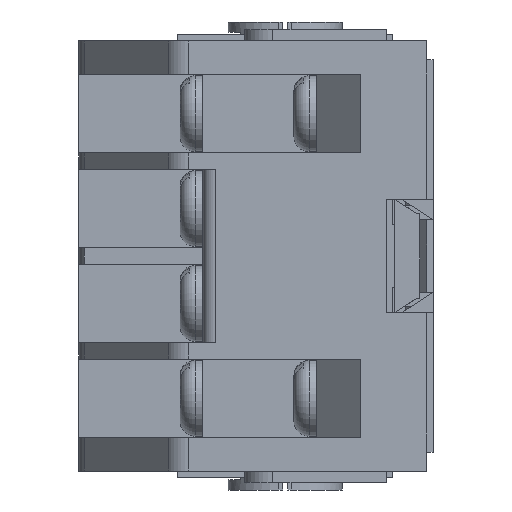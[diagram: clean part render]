
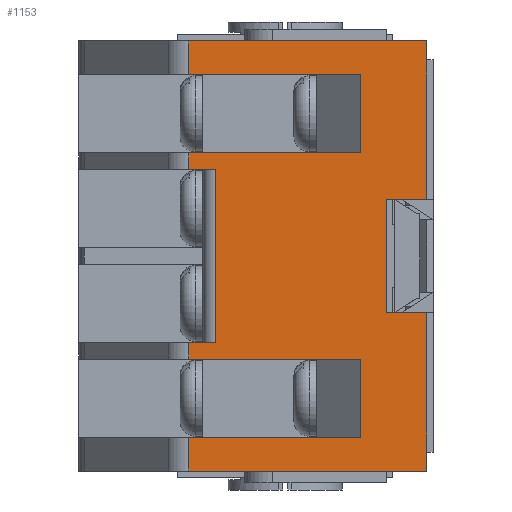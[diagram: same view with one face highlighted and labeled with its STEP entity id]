
A CAD part, left-side view. The second image highlights one B-rep face of the part: STEP entity #1153.
In plain terms, the highlighted planar face has unit normal (-1, 0, 0).
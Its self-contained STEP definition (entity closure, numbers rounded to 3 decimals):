
#1153=ADVANCED_FACE('',(#6126),#6128,.T.);
#6126=FACE_BOUND('',#6127,.T.);
#6127=EDGE_LOOP('',(#10178,#10179,#10180,#10181,#10182,#10183,#10184,#10185,#10186,
#10187,#10188,#10189,#10190,#10191,#10192,#10193,#10194,#10195,#10196,#10197,#10198,
#10199,#10200,#10201,#10202));
#6128=PLANE('',#6129);
#6129=AXIS2_PLACEMENT_3D('',#6130,#6131,#6132);
#6130=CARTESIAN_POINT('',(-35.85,18.816,0.));
#6131=DIRECTION('',(-1.,0.,0.));
#6132=DIRECTION('',(0.,-1.,0.));
#10178=ORIENTED_EDGE('',*,*,#13139,.T.);
#10179=ORIENTED_EDGE('',*,*,#13140,.T.);
#10180=ORIENTED_EDGE('',*,*,#13141,.F.);
#10181=ORIENTED_EDGE('',*,*,#13087,.T.);
#10182=ORIENTED_EDGE('',*,*,#13142,.T.);
#10183=ORIENTED_EDGE('',*,*,#12941,.T.);
#10184=ORIENTED_EDGE('',*,*,#12938,.T.);
#10185=ORIENTED_EDGE('',*,*,#12935,.T.);
#10186=ORIENTED_EDGE('',*,*,#13138,.T.);
#10187=ORIENTED_EDGE('',*,*,#12994,.F.);
#10188=ORIENTED_EDGE('',*,*,#13143,.F.);
#10189=ORIENTED_EDGE('',*,*,#13144,.T.);
#10190=ORIENTED_EDGE('',*,*,#13145,.T.);
#10191=ORIENTED_EDGE('',*,*,#13146,.T.);
#10192=ORIENTED_EDGE('',*,*,#13147,.T.);
#10193=ORIENTED_EDGE('',*,*,#13148,.T.);
#10194=ORIENTED_EDGE('',*,*,#13149,.T.);
#10195=ORIENTED_EDGE('',*,*,#13150,.T.);
#10196=ORIENTED_EDGE('',*,*,#13151,.F.);
#10197=ORIENTED_EDGE('',*,*,#13152,.T.);
#10198=ORIENTED_EDGE('',*,*,#13153,.T.);
#10199=ORIENTED_EDGE('',*,*,#13154,.T.);
#10200=ORIENTED_EDGE('',*,*,#13155,.F.);
#10201=ORIENTED_EDGE('',*,*,#13156,.T.);
#10202=ORIENTED_EDGE('',*,*,#13157,.T.);
#12935=EDGE_CURVE('',#14525,#14523,#14526,.F.);
#12938=EDGE_CURVE('',#14529,#14525,#14530,.F.);
#12941=EDGE_CURVE('',#14535,#14529,#14536,.F.);
#12994=EDGE_CURVE('',#14628,#14630,#14631,.T.);
#13087=EDGE_CURVE('',#14803,#14801,#14804,.T.);
#13138=EDGE_CURVE('',#14523,#14630,#14891,.T.);
#13139=EDGE_CURVE('',#14892,#14893,#14894,.T.);
#13140=EDGE_CURVE('',#14893,#14895,#14896,.F.);
#13141=EDGE_CURVE('',#14803,#14895,#14897,.T.);
#13142=EDGE_CURVE('',#14801,#14535,#14898,.T.);
#13143=EDGE_CURVE('',#14899,#14628,#14900,.T.);
#13144=EDGE_CURVE('',#14899,#14901,#14902,.F.);
#13145=EDGE_CURVE('',#14901,#14903,#14904,.F.);
#13146=EDGE_CURVE('',#14903,#14905,#14906,.F.);
#13147=EDGE_CURVE('',#14905,#14907,#14908,.T.);
#13148=EDGE_CURVE('',#14907,#14909,#14910,.F.);
#13149=EDGE_CURVE('',#14909,#14911,#14912,.T.);
#13150=EDGE_CURVE('',#14911,#14913,#14914,.F.);
#13151=EDGE_CURVE('',#14915,#14913,#14916,.T.);
#13152=EDGE_CURVE('',#14915,#14917,#14918,.F.);
#13153=EDGE_CURVE('',#14917,#14919,#14920,.T.);
#13154=EDGE_CURVE('',#14919,#14921,#14922,.F.);
#13155=EDGE_CURVE('',#14923,#14921,#14924,.T.);
#13156=EDGE_CURVE('',#14923,#14925,#14926,.F.);
#13157=EDGE_CURVE('',#14925,#14892,#14927,.F.);
#14523=VERTEX_POINT('',#17197);
#14525=VERTEX_POINT('',#17201);
#14526=LINE('',#17202,#17203);
#14529=VERTEX_POINT('',#17211);
#14530=LINE('',#17212,#17213);
#14535=VERTEX_POINT('',#17223);
#14536=LINE('',#17224,#17225);
#14628=VERTEX_POINT('',#17422);
#14630=VERTEX_POINT('',#17427);
#14631=LINE('',#17428,#17429);
#14801=VERTEX_POINT('',#17801);
#14803=VERTEX_POINT('',#17805);
#14804=LINE('',#17806,#17807);
#14891=LINE('',#18003,#18004);
#14892=VERTEX_POINT('',#18006);
#14893=VERTEX_POINT('',#18007);
#14894=LINE('',#18008,#18009);
#14895=VERTEX_POINT('',#18011);
#14896=LINE('',#18012,#18013);
#14897=LINE('',#18015,#18016);
#14898=LINE('',#18018,#18019);
#14899=VERTEX_POINT('',#18021);
#14900=LINE('',#18022,#18023);
#14901=VERTEX_POINT('',#18025);
#14902=LINE('',#18026,#18027);
#14903=VERTEX_POINT('',#18029);
#14904=LINE('',#18030,#18031);
#14905=VERTEX_POINT('',#18033);
#14906=LINE('',#18034,#18035);
#14907=VERTEX_POINT('',#18037);
#14908=LINE('',#18038,#18039);
#14909=VERTEX_POINT('',#18041);
#14910=LINE('',#18042,#18043);
#14911=VERTEX_POINT('',#18045);
#14912=LINE('',#18046,#18047);
#14913=VERTEX_POINT('',#18049);
#14914=LINE('',#18050,#18051);
#14915=VERTEX_POINT('',#18053);
#14916=LINE('',#18054,#18055);
#14917=VERTEX_POINT('',#18057);
#14918=LINE('',#18058,#18059);
#14919=VERTEX_POINT('',#18061);
#14920=LINE('',#18062,#18063);
#14921=VERTEX_POINT('',#18065);
#14922=LINE('',#18066,#18067);
#14923=VERTEX_POINT('',#18069);
#14924=LINE('',#18070,#18071);
#14925=VERTEX_POINT('',#18073);
#14926=LINE('',#18074,#18075);
#14927=LINE('',#18077,#18078);
#17197=CARTESIAN_POINT('',(-35.85,0.,21.498));
#17201=CARTESIAN_POINT('',(-35.85,3.2,21.498));
#17202=CARTESIAN_POINT('',(-35.85,0.,21.498));
#17203=VECTOR('',#17204,1.);
#17204=DIRECTION('',(0.,1.,0.));
#17211=CARTESIAN_POINT('',(-35.85,3.2,12.5));
#17212=CARTESIAN_POINT('',(-35.85,3.2,21.498));
#17213=VECTOR('',#17214,1.);
#17214=DIRECTION('',(0.,0.,-1.));
#17223=CARTESIAN_POINT('',(-35.85,0.,12.5));
#17224=CARTESIAN_POINT('',(-35.85,3.2,12.5));
#17225=VECTOR('',#17226,1.);
#17226=DIRECTION('',(0.,-1.,0.));
#17422=CARTESIAN_POINT('',(-35.85,18.816,34.));
#17427=CARTESIAN_POINT('',(-35.85,0.,34.));
#17428=CARTESIAN_POINT('',(-35.85,18.816,34.));
#17429=VECTOR('',#17430,1.);
#17430=DIRECTION('',(0.,-1.,0.));
#17801=CARTESIAN_POINT('',(-35.85,0.,0.));
#17805=CARTESIAN_POINT('',(-35.85,18.816,0.));
#17806=CARTESIAN_POINT('',(-35.85,18.816,0.));
#17807=VECTOR('',#17808,1.);
#17808=DIRECTION('',(0.,-1.,0.));
#18003=CARTESIAN_POINT('',(-35.85,0.,21.498));
#18004=VECTOR('',#18005,1.);
#18005=DIRECTION('',(0.,0.,1.));
#18006=CARTESIAN_POINT('',(-35.85,5.2,8.85));
#18007=CARTESIAN_POINT('',(-35.85,5.2,2.65));
#18008=CARTESIAN_POINT('',(-35.85,5.2,8.85));
#18009=VECTOR('',#18010,1.);
#18010=DIRECTION('',(0.,0.,-1.));
#18011=CARTESIAN_POINT('',(-35.85,18.816,2.65));
#18012=CARTESIAN_POINT('',(-35.85,18.816,2.65));
#18013=VECTOR('',#18014,1.);
#18014=DIRECTION('',(0.,-1.,0.));
#18015=CARTESIAN_POINT('',(-35.85,18.816,0.));
#18016=VECTOR('',#18017,1.);
#18017=DIRECTION('',(0.,0.,1.));
#18018=CARTESIAN_POINT('',(-35.85,0.,0.));
#18019=VECTOR('',#18020,1.);
#18020=DIRECTION('',(0.,0.,1.));
#18021=CARTESIAN_POINT('',(-35.85,18.816,31.35));
#18022=CARTESIAN_POINT('',(-35.85,18.816,31.35));
#18023=VECTOR('',#18024,1.);
#18024=DIRECTION('',(0.,0.,1.));
#18025=CARTESIAN_POINT('',(-35.85,17.7,31.35));
#18026=CARTESIAN_POINT('',(-35.85,17.7,31.35));
#18027=VECTOR('',#18028,1.);
#18028=DIRECTION('',(0.,1.,0.));
#18029=CARTESIAN_POINT('',(-35.85,17.7,31.357));
#18030=CARTESIAN_POINT('',(-35.85,17.7,31.357));
#18031=VECTOR('',#18032,1.);
#18032=DIRECTION('',(0.,0.,-1.));
#18033=CARTESIAN_POINT('',(-35.85,5.2,31.357));
#18034=CARTESIAN_POINT('',(-35.85,5.2,31.357));
#18035=VECTOR('',#18036,1.);
#18036=DIRECTION('',(0.,1.,0.));
#18037=CARTESIAN_POINT('',(-35.85,5.2,25.156));
#18038=CARTESIAN_POINT('',(-35.85,5.2,31.357));
#18039=VECTOR('',#18040,1.);
#18040=DIRECTION('',(0.,0.,-1.));
#18041=CARTESIAN_POINT('',(-35.85,17.7,25.156));
#18042=CARTESIAN_POINT('',(-35.85,17.7,25.156));
#18043=VECTOR('',#18044,1.);
#18044=DIRECTION('',(0.,-1.,0.));
#18045=CARTESIAN_POINT('',(-35.85,17.7,25.15));
#18046=CARTESIAN_POINT('',(-35.85,17.7,25.156));
#18047=VECTOR('',#18048,1.);
#18048=DIRECTION('',(0.,0.,-1.));
#18049=CARTESIAN_POINT('',(-35.85,18.816,25.15));
#18050=CARTESIAN_POINT('',(-35.85,18.816,25.15));
#18051=VECTOR('',#18052,1.);
#18052=DIRECTION('',(0.,-1.,0.));
#18053=CARTESIAN_POINT('',(-35.85,18.816,23.85));
#18054=CARTESIAN_POINT('',(-35.85,18.816,23.85));
#18055=VECTOR('',#18056,1.);
#18056=DIRECTION('',(0.,0.,1.));
#18057=CARTESIAN_POINT('',(-35.85,16.7,23.85));
#18058=CARTESIAN_POINT('',(-35.85,16.7,23.85));
#18059=VECTOR('',#18060,1.);
#18060=DIRECTION('',(0.,1.,0.));
#18061=CARTESIAN_POINT('',(-35.85,16.7,10.15));
#18062=CARTESIAN_POINT('',(-35.85,16.7,23.85));
#18063=VECTOR('',#18064,1.);
#18064=DIRECTION('',(0.,0.,-1.));
#18065=CARTESIAN_POINT('',(-35.85,18.816,10.15));
#18066=CARTESIAN_POINT('',(-35.85,18.816,10.15));
#18067=VECTOR('',#18068,1.);
#18068=DIRECTION('',(0.,-1.,0.));
#18069=CARTESIAN_POINT('',(-35.85,18.816,8.85));
#18070=CARTESIAN_POINT('',(-35.85,18.816,8.85));
#18071=VECTOR('',#18072,1.);
#18072=DIRECTION('',(0.,0.,1.));
#18073=CARTESIAN_POINT('',(-35.85,17.7,8.85));
#18074=CARTESIAN_POINT('',(-35.85,17.7,8.85));
#18075=VECTOR('',#18076,1.);
#18076=DIRECTION('',(0.,1.,0.));
#18077=CARTESIAN_POINT('',(-35.85,5.2,8.85));
#18078=VECTOR('',#18079,1.);
#18079=DIRECTION('',(0.,1.,0.));
